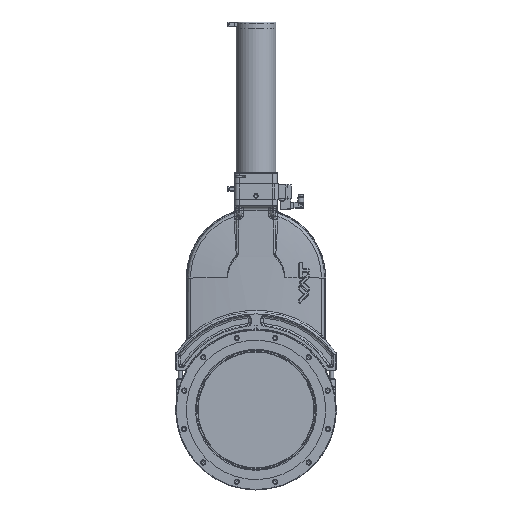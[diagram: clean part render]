
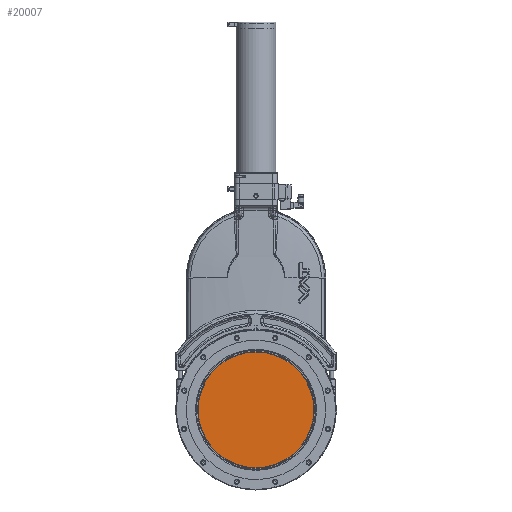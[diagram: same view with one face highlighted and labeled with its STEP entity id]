
A CAD part, top view. The second image highlights one B-rep face of the part: STEP entity #20007.
In plain terms, the highlighted planar face has unit normal (0, 0, 1).
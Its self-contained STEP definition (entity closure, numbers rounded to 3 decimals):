
#20007=ADVANCED_FACE('',(#23571),#21169,.T.);
#21169=PLANE('',#64196);
#23571=FACE_OUTER_BOUND('',#27387,.T.);
#27387=EDGE_LOOP('',(#43117));
#29309=CIRCLE('',#64195,153.459);
#43117=ORIENTED_EDGE('',*,*,#54751,.F.);
#47822=VERTEX_POINT('',#126686);
#54751=EDGE_CURVE('',#47822,#47822,#29309,.T.);
#64195=AXIS2_PLACEMENT_3D('',#126685,#75468,#75469);
#64196=AXIS2_PLACEMENT_3D('',#126687,#75470,#75471);
#75468=DIRECTION('',(0.,0.,-1.));
#75469=DIRECTION('',(-1.,0.,0.));
#75470=DIRECTION('',(0.,0.,1.));
#75471=DIRECTION('',(1.,0.,0.));
#126685=CARTESIAN_POINT('',(0.,0.,17.226));
#126686=CARTESIAN_POINT('',(-153.459,0.,17.226));
#126687=CARTESIAN_POINT('',(0.,153.459,17.226));
